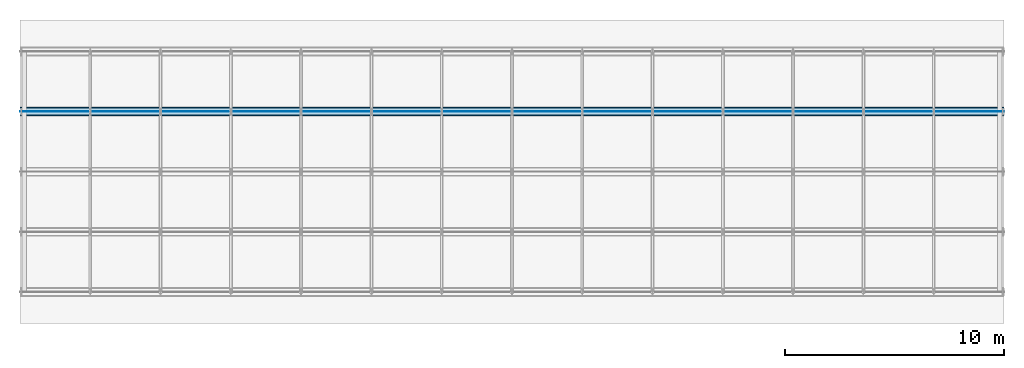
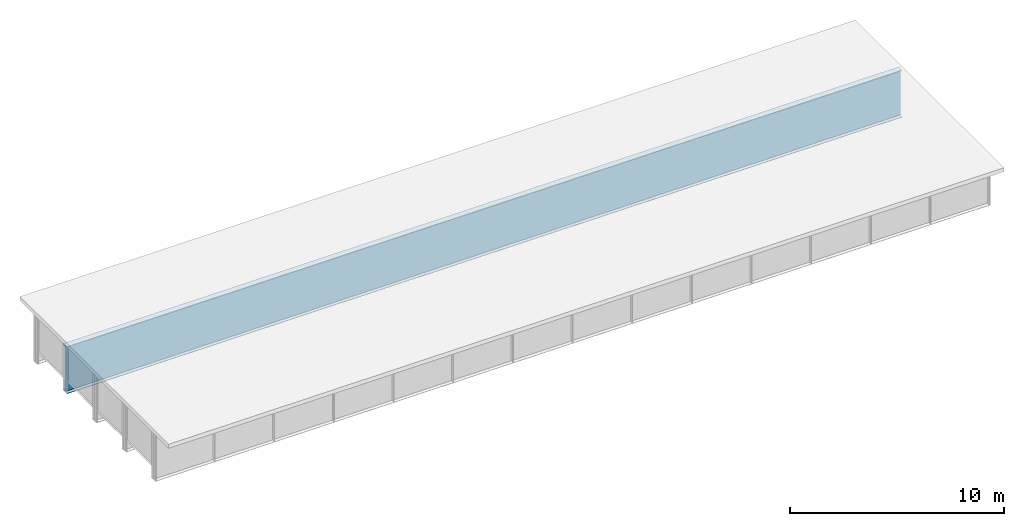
# One storey, part 15 of 20: 3 plates.
"""IFC4 building model written with IfcOpenShell, lengths in metres."""

from ifc_helpers import new_model, si_unit, frame, origin, origin_with_axes, origin_2d_with_axis, place, context, subcontext, project, spatial, rectangle, extrude, element, save


model = new_model("IFC4")

# Units and contexts
model_context = context("Model", 3, precision=1e-05, world=origin())
body_context = subcontext(model_context, "Body", "Model", "MODEL_VIEW")
ifc_project = project(units=[si_unit("LENGTHUNIT", "METRE"), si_unit("AREAUNIT", "SQUARE_METRE"), si_unit("VOLUMEUNIT", "CUBIC_METRE"), si_unit("PLANEANGLEUNIT", "RADIAN")], contexts=[model_context])

# Site, building, storey
site_placement = place(None, origin_with_axes())
site = spatial("IfcSite", under=ifc_project, at=site_placement, Name="Default Site")
building_placement = place(site_placement, origin_with_axes())
building = spatial("IfcBuilding", under=site, at=building_placement, Name="Bridge Structure")
storey_placement = place(building_placement, origin_with_axes())
storey = spatial("IfcBuildingStorey", under=building, at=storey_placement, Name="Superstructure")

# Plates
plate_1_placement = place(storey_placement, frame((0.0, 2.75, 0.0), z_axis=(1.0, 0.0, 0.0), x_axis=(0.0, 1.0, 0.0)))
element("IfcPlate", 1, at=plate_1_placement, inside=storey, Name="Girder Web 4", context=body_context, shape_type="SweptSolid", body=[
    extrude(rectangle(XDim=0.018000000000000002, YDim=2.614, at=origin_2d_with_axis()), origin_with_axes(), (0.0, 0.0, 1.0), 45.0),
])
plate_2_placement = place(storey_placement, frame((0.0, 2.75, 1.315), z_axis=(1.0, 0.0, 0.0), x_axis=(0.0, 1.0, 0.0)))
element("IfcPlate", 2, at=plate_2_placement, inside=storey, Name="Top Flange 4", context=body_context, shape_type="SweptSolid", body=[
    extrude(rectangle(XDim=0.325, YDim=0.016, at=origin_2d_with_axis()), origin_with_axes(), (0.0, 0.0, 1.0), 45.0),
])
plate_3_placement = place(storey_placement, frame((0.0, 2.75, -1.317), z_axis=(1.0, 0.0, 0.0), x_axis=(0.0, 1.0, 0.0)))
element("IfcPlate", 3, at=plate_3_placement, inside=storey, Name="Bottom Flange 4", context=body_context, shape_type="SweptSolid", body=[
    extrude(rectangle(XDim=0.4, YDim=0.02, at=origin_2d_with_axis()), origin_with_axes(), (0.0, 0.0, 1.0), 45.0),
])

save(model, "model.ifc")
